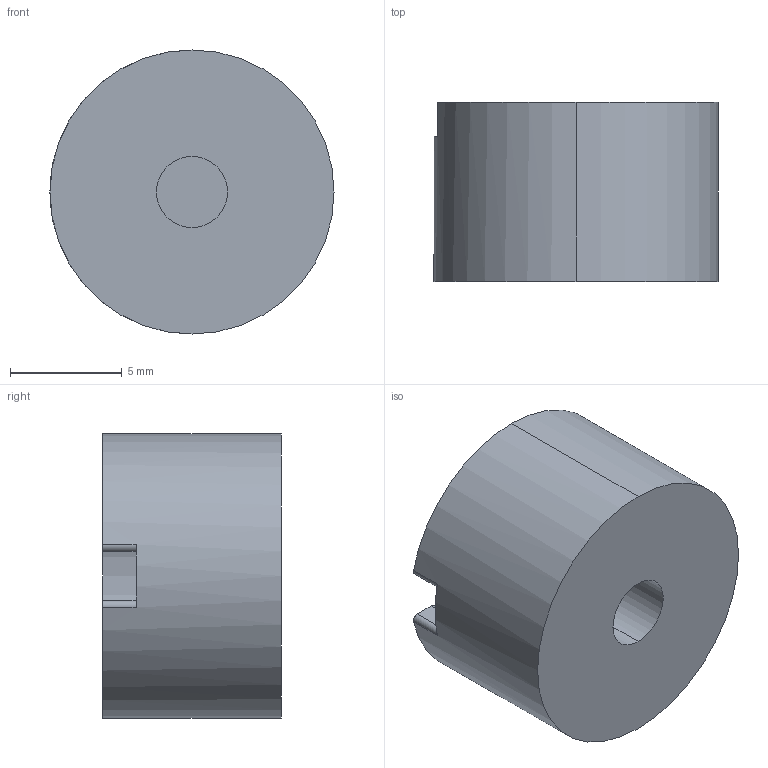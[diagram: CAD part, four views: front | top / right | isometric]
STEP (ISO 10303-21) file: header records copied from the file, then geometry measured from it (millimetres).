
FILE_DESCRIPTION (( 'STEP AP214' ), '1' );
FILE_NAME ('LCMKD-10N_Mounting Cup_v2.0.STEP', '2022-06-01T23:16:38', ( '' ), ( '' ), 'SwSTEP 2.0', 'SolidWorks 2019', '' );
FILE_SCHEMA (( 'AUTOMOTIVE_DESIGN' ));
Length unit declared in the file: millimetre
Products named in the file (1): LCMKD-10N_Mounting Cup_v2.0
Bounding box: 12.7 x 8 x 12.7 mm (x, y, z)
Volume: 859.4 mm3; surface area: 656.4 mm2
Topology: 1 solids, 1 shells, 17 faces, 42 edges, 28 vertices
Faces by surface type: cylinder 11, plane 6
Entity records: 554 total; most frequent: DIRECTION 102, CARTESIAN_POINT 88, ORIENTED_EDGE 84, EDGE_CURVE 42, AXIS2_PLACEMENT_3D 42, VERTEX_POINT 28, CIRCLE 24, LINE 18
